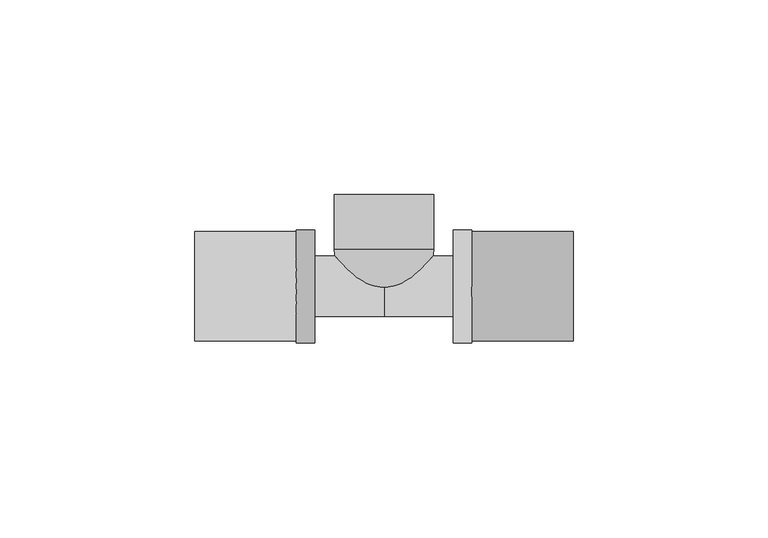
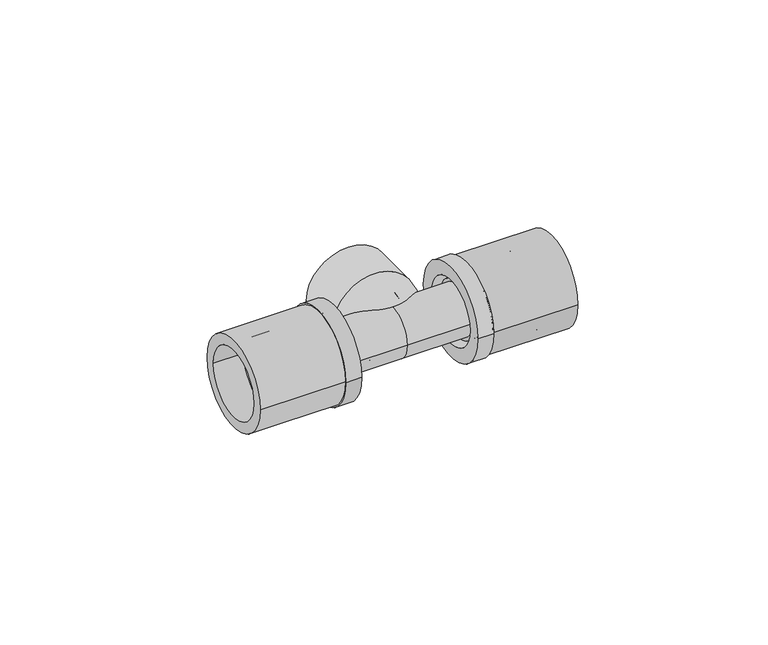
"""IFC4 building model written with IfcOpenShell, lengths in millimetres: pipe fitting geometry, FASTLOC_T-piece internal thread LX : FSL T thread LX CZ."""

from ifc_helpers import new_model, si_unit, point, frame, origin, origin_2d, place, context, project, spatial, polyline, circle_curve, ellipse_curve, trimmed, segment, composite_curve, outline, extrude, source, transform, mapped, element, save
from ifc_brep_helpers import plane_surface, cylinder_surface, revolved_surface, advanced_brep


def pipe_fitting_47d0521d(model_context):
    return source(origin(), model_context, "Body", "SolidModel", [
        extrude(outline(composite_curve([segment(trimmed(circle_curve(origin_2d(), 14.0), [point((-14.0, 0.0))], [point((14.0, 0.0))], False, "CARTESIAN"), True, "CONTINUOUS"), segment(trimmed(circle_curve(origin_2d(), 14.0), [point((14.0, 0.0))], [point((-14.0, 0.0))], False, "CARTESIAN"), True, "CONTINUOUS")], self_intersect=False), holes=[composite_curve([segment(trimmed(circle_curve(origin_2d(), 10.7), [point((-10.7, 0.0))], [point((10.7, 0.0))], True, "CARTESIAN"), True, "CONTINUOUS"), segment(trimmed(circle_curve(origin_2d(), 10.7), [point((10.7, 0.0))], [point((-10.7, 0.0))], True, "CARTESIAN"), True, "CONTINUOUS")], self_intersect=False)]), frame((22.5, 0.0, 0.0), z_axis=(1.0, 0.0, 0.0), x_axis=(0.0, 1.0, 0.0)), (0.0, 0.0, 1.0), 26.0),
        advanced_brep(
        [(22.5, 14.5, 0.0), (22.5, -14.5, 0.0), (17.8, -14.5, 0.0), (17.8, 14.5, 0.0), (39.5, 11.85, 0.0), (39.5, -11.85, 0.0), (22.5, -11.85, 0.0), (22.5, 11.85, 0.0), (17.8, 10.15, 0.0), (17.8, -10.15, 0.0), (39.5, -10.15, 0.0), (39.5, 10.15, 0.0)],
        [
            (0, 1, circle_curve(frame((22.5, 0.0, 0.0), z_axis=(-1.0, 0.0, 0.0), x_axis=(0.0, -1.0, 0.0)), 14.5)),
            (1, 2),
            (2, 3, circle_curve(frame((17.8, 0.0, 0.0), z_axis=(1.0, 0.0, 0.0), x_axis=(0.0, -1.0, 0.0)), 14.5)),
            (3, 0),
            (4, 5, circle_curve(frame((39.5, 0.0, 0.0), z_axis=(-1.0, 0.0, 0.0), x_axis=(0.0, -1.0, 0.0)), 11.85)),
            (5, 6),
            (6, 7, circle_curve(frame((22.5, 0.0, 0.0), z_axis=(1.0, 0.0, 0.0), x_axis=(0.0, -1.0, 0.0)), 11.85)),
            (7, 4),
            (8, 9, circle_curve(frame((17.8, 0.0, 0.0), z_axis=(-1.0, 0.0, 0.0), x_axis=(0.0, -1.0, 0.0)), 10.15)),
            (9, 10),
            (10, 11, circle_curve(frame((39.5, 0.0, 0.0), z_axis=(1.0, 0.0, 0.0), x_axis=(0.0, -1.0, 0.0)), 10.15)),
            (11, 8),
            (1, 0, circle_curve(frame((22.5, 0.0, 0.0), z_axis=(-1.0, 0.0, 0.0), x_axis=(0.0, 1.0, 0.0)), 14.5)),
            (3, 2, circle_curve(frame((17.8, 0.0, 0.0), z_axis=(1.0, 0.0, 0.0), x_axis=(0.0, 1.0, 0.0)), 14.5)),
            (6, 7, circle_curve(frame((22.5, 0.0, 0.0), z_axis=(-1.0, 0.0, 0.0), x_axis=(0.0, 1.0, 0.0)), 11.85)),
            (5, 4, circle_curve(frame((39.5, 0.0, 0.0), z_axis=(-1.0, 0.0, 0.0), x_axis=(0.0, 1.0, 0.0)), 11.85)),
            (10, 11, circle_curve(frame((39.5, 0.0, 0.0), z_axis=(-1.0, 0.0, 0.0), x_axis=(0.0, 1.0, 0.0)), 10.15)),
            (9, 8, circle_curve(frame((17.8, 0.0, 0.0), z_axis=(-1.0, 0.0, 0.0), x_axis=(0.0, 1.0, 0.0)), 10.15)),
        ],
        [
            cylinder_surface(frame((17.8, 0.0, 0.0), z_axis=(1.0, 0.0, 0.0), x_axis=(0.0, -1.0, 0.0)), 14.5),
            cylinder_surface(frame((17.8, 0.0, 0.0), z_axis=(1.0, 0.0, 0.0), x_axis=(0.0, -1.0, 0.0)), 11.85),
            revolved_surface(polyline([(39.5, -10.15, 0.0), (17.8, -10.15, 0.0)]), (17.8, 0.0, 0.0), (1.0, 0.0, 0.0)),
            cylinder_surface(frame((17.8, 0.0, 0.0), z_axis=(1.0, 0.0, 0.0), x_axis=(0.0, 1.0, 0.0)), 14.5),
            plane_surface(frame((22.5, 0.0, 0.0), z_axis=(1.0, 0.0, 0.0), x_axis=(0.0, 1.0, 0.0))),
            cylinder_surface(frame((17.8, 0.0, 0.0), z_axis=(1.0, 0.0, 0.0), x_axis=(0.0, 1.0, 0.0)), 11.85),
            plane_surface(frame((39.5, 0.0, 0.0), z_axis=(1.0, 0.0, 0.0), x_axis=(0.0, 1.0, 0.0))),
            revolved_surface(polyline([(39.5, 10.15, 0.0), (17.8, 10.15, 0.0)]), (17.8, 0.0, 0.0), (1.0, 0.0, 0.0)),
            plane_surface(frame((17.8, 0.0, 0.0), z_axis=(-1.0, 0.0, 0.0), x_axis=(0.0, 1.0, 0.0))),
        ],
        [
            (0, [[1, 2, 3, 4]]),
            (1, [[5, 6, 7, 8]]),
            (2, [[9, 10, 11, 12]]),
            (3, [[13, -4, 14, -2]]),
            (4, [[-13, -1], [15, -7]]),
            (5, [[16, -8, -15, -6]]),
            (6, [[-16, -5], [17, -11]]),
            (7, [[18, -12, -17, -10]]),
            (8, [[-14, -3], [-18, -9]]),
        ],
    ),
        extrude(outline(composite_curve([segment(trimmed(circle_curve(origin_2d(), 14.0), [point((14.0, 0.0))], [point((-14.0, 0.0))], False, "CARTESIAN"), True, "CONTINUOUS"), segment(trimmed(circle_curve(origin_2d(), 14.0), [point((-14.0, 0.0))], [point((14.0, 0.0))], False, "CARTESIAN"), True, "CONTINUOUS")], self_intersect=False), holes=[composite_curve([segment(trimmed(circle_curve(origin_2d(), 10.7), [point((10.7, 0.0))], [point((-10.7, 0.0))], True, "CARTESIAN"), True, "CONTINUOUS"), segment(trimmed(circle_curve(origin_2d(), 10.7), [point((-10.7, 0.0))], [point((10.7, 0.0))], True, "CARTESIAN"), True, "CONTINUOUS")], self_intersect=False)]), frame((-48.5, 0.0, 0.0), z_axis=(1.0, 0.0, 0.0), x_axis=(0.0, 1.0, 0.0)), (0.0, 0.0, 1.0), 26.0),
        advanced_brep(
        [(-22.5, -14.5, 0.0), (-22.5, 14.5, 0.0), (-17.8, 14.5, 0.0), (-17.8, -14.5, 0.0), (-39.5, -11.85, 0.0), (-39.5, 11.85, 0.0), (-22.5, 11.85, 0.0), (-22.5, -11.85, 0.0), (-17.8, -10.15, 0.0), (-17.8, 10.15, 0.0), (-39.5, 10.15, 0.0), (-39.5, -10.15, 0.0)],
        [
            (0, 1, circle_curve(frame((-22.5, 0.0, 0.0), z_axis=(1.0, 0.0, 0.0), x_axis=(0.0, 1.0, 0.0)), 14.5)),
            (1, 2),
            (2, 3, circle_curve(frame((-17.8, 0.0, 0.0), z_axis=(-1.0, 0.0, 0.0), x_axis=(0.0, 1.0, 0.0)), 14.5)),
            (3, 0),
            (4, 5, circle_curve(frame((-39.5, 0.0, 0.0), z_axis=(1.0, 0.0, 0.0), x_axis=(0.0, 1.0, 0.0)), 11.85)),
            (5, 6),
            (6, 7, circle_curve(frame((-22.5, 0.0, 0.0), z_axis=(-1.0, 0.0, 0.0), x_axis=(0.0, 1.0, 0.0)), 11.85)),
            (7, 4),
            (8, 9, circle_curve(frame((-17.8, 0.0, 0.0), z_axis=(1.0, 0.0, 0.0), x_axis=(0.0, 1.0, 0.0)), 10.15)),
            (9, 10),
            (10, 11, circle_curve(frame((-39.5, 0.0, 0.0), z_axis=(-1.0, 0.0, 0.0), x_axis=(0.0, 1.0, 0.0)), 10.15)),
            (11, 8),
            (1, 0, circle_curve(frame((-22.5, 0.0, 0.0), z_axis=(1.0, 0.0, 0.0), x_axis=(0.0, -1.0, 0.0)), 14.5)),
            (3, 2, circle_curve(frame((-17.8, 0.0, 0.0), z_axis=(-1.0, 0.0, 0.0), x_axis=(0.0, -1.0, 0.0)), 14.5)),
            (6, 7, circle_curve(frame((-22.5, 0.0, 0.0), z_axis=(1.0, 0.0, 0.0), x_axis=(0.0, -1.0, 0.0)), 11.85)),
            (5, 4, circle_curve(frame((-39.5, 0.0, 0.0), z_axis=(1.0, 0.0, 0.0), x_axis=(0.0, -1.0, 0.0)), 11.85)),
            (10, 11, circle_curve(frame((-39.5, 0.0, 0.0), z_axis=(1.0, 0.0, 0.0), x_axis=(0.0, -1.0, 0.0)), 10.15)),
            (9, 8, circle_curve(frame((-17.8, 0.0, 0.0), z_axis=(1.0, 0.0, 0.0), x_axis=(0.0, -1.0, 0.0)), 10.15)),
        ],
        [
            cylinder_surface(frame((-17.8, 0.0, 0.0), z_axis=(-1.0, 0.0, 0.0), x_axis=(0.0, 1.0, 0.0)), 14.5),
            cylinder_surface(frame((-17.8, 0.0, 0.0), z_axis=(-1.0, 0.0, 0.0), x_axis=(0.0, 1.0, 0.0)), 11.85),
            revolved_surface(polyline([(-39.5, 10.15, 0.0), (-17.8, 10.15, 0.0)]), (-17.8, 0.0, 0.0), (-1.0, 0.0, 0.0)),
            cylinder_surface(frame((-17.8, 0.0, 0.0), z_axis=(-1.0, 0.0, 0.0), x_axis=(0.0, -1.0, 0.0)), 14.5),
            plane_surface(frame((-22.5, 0.0, 0.0), z_axis=(-1.0, 0.0, 0.0), x_axis=(0.0, -1.0, 0.0))),
            cylinder_surface(frame((-17.8, 0.0, 0.0), z_axis=(-1.0, 0.0, 0.0), x_axis=(0.0, -1.0, 0.0)), 11.85),
            plane_surface(frame((-39.5, 0.0, 0.0), z_axis=(-1.0, 0.0, 0.0), x_axis=(0.0, -1.0, 0.0))),
            revolved_surface(polyline([(-39.5, -10.15, 0.0), (-17.8, -10.15, 0.0)]), (-17.8, 0.0, 0.0), (-1.0, 0.0, 0.0)),
            plane_surface(frame((-17.8, 0.0, 0.0), z_axis=(1.0, 0.0, 0.0), x_axis=(0.0, -1.0, 0.0))),
        ],
        [
            (0, [[1, 2, 3, 4]]),
            (1, [[5, 6, 7, 8]]),
            (2, [[9, 10, 11, 12]]),
            (3, [[13, -4, 14, -2]]),
            (4, [[-13, -1], [15, -7]]),
            (5, [[16, -8, -15, -6]]),
            (6, [[-16, -5], [17, -11]]),
            (7, [[18, -12, -17, -10]]),
            (8, [[-14, -3], [-18, -9]]),
        ],
    ),
        advanced_brep(
        [(22.5, 8.8, 0.0), (22.5, -8.8, 0.0), (19.8, -8.8, 0.0), (19.8, 8.8, 0.0), (39.9, 7.75, 0.0), (39.9, -7.75, 0.0), (22.5, -7.75, 0.0), (22.5, 7.75, 0.0), (-39.9, 5.75, 0.0), (-39.9, -5.75, 0.0), (39.9, -5.75, 0.0), (39.9, 5.75, 0.0), (-22.5, 7.75, 0.0), (-22.5, -7.75, 0.0), (-39.9, -7.75, 0.0), (-39.9, 7.75, 0.0), (-19.8, 8.8, 0.0), (-19.8, -8.8, 0.0), (-22.5, -8.8, 0.0), (-22.5, 8.8, 0.0), (0.0, 7.75, 0.0), (0.0, -7.75, 0.0), (-19.8, -7.75, 0.0), (-19.8, 7.75, 0.0), (19.8, 7.75, 0.0), (19.8, -7.75, 0.0)],
        [
            (0, 1, circle_curve(frame((22.5, 0.0, 0.0), z_axis=(-1.0, 0.0, 0.0), x_axis=(0.0, -1.0, 0.0)), 8.8)),
            (1, 2),
            (2, 3, circle_curve(frame((19.8, 0.0, 0.0), z_axis=(1.0, 0.0, 0.0), x_axis=(0.0, -1.0, 0.0)), 8.8)),
            (3, 0),
            (4, 5, circle_curve(frame((39.9, 0.0, 0.0), z_axis=(-1.0, 0.0, 0.0), x_axis=(0.0, -1.0, 0.0)), 7.75)),
            (5, 6),
            (6, 7, circle_curve(frame((22.5, 0.0, 0.0), z_axis=(1.0, 0.0, 0.0), x_axis=(0.0, -1.0, 0.0)), 7.75)),
            (7, 4),
            (8, 9, circle_curve(frame((-39.9, 0.0, 0.0), z_axis=(-1.0, 0.0, 0.0), x_axis=(0.0, -1.0, 0.0)), 5.75)),
            (9, 10),
            (10, 11, circle_curve(frame((39.9, 0.0, 0.0), z_axis=(1.0, 0.0, 0.0), x_axis=(0.0, -1.0, 0.0)), 5.75)),
            (11, 8),
            (12, 13, circle_curve(frame((-22.5, 0.0, 0.0), z_axis=(-1.0, 0.0, 0.0), x_axis=(0.0, -1.0, 0.0)), 7.75)),
            (13, 14),
            (14, 15, circle_curve(frame((-39.9, 0.0, 0.0), z_axis=(1.0, 0.0, 0.0), x_axis=(0.0, -1.0, 0.0)), 7.75)),
            (15, 12),
            (16, 17, circle_curve(frame((-19.8, 0.0, 0.0), z_axis=(-1.0, 0.0, 0.0), x_axis=(0.0, -1.0, 0.0)), 8.8)),
            (17, 18),
            (18, 19, circle_curve(frame((-22.5, 0.0, 0.0), z_axis=(1.0, 0.0, 0.0), x_axis=(0.0, -1.0, 0.0)), 8.8)),
            (19, 16),
            (20, 21, circle_curve(frame((0.0, 0.0, 0.0), z_axis=(-1.0, 0.0, 0.0), x_axis=(0.0, -1.0, 0.0)), 7.75)),
            (21, 22),
            (22, 23, circle_curve(frame((-19.8, 0.0, 0.0), z_axis=(1.0, 0.0, 0.0), x_axis=(0.0, -1.0, 0.0)), 7.75)),
            (23, 20),
            (24, 25, circle_curve(frame((19.8, 0.0, 0.0), z_axis=(-1.0, 0.0, 0.0), x_axis=(0.0, -1.0, 0.0)), 7.75)),
            (25, 21),
            (20, 24),
            (1, 0, circle_curve(frame((22.5, 0.0, 0.0), z_axis=(-1.0, 0.0, 0.0), x_axis=(0.0, 1.0, 0.0)), 8.8)),
            (3, 2, circle_curve(frame((19.8, 0.0, 0.0), z_axis=(1.0, 0.0, 0.0), x_axis=(0.0, 1.0, 0.0)), 8.8)),
            (6, 7, circle_curve(frame((22.5, 0.0, 0.0), z_axis=(-1.0, 0.0, 0.0), x_axis=(0.0, 1.0, 0.0)), 7.75)),
            (5, 4, circle_curve(frame((39.9, 0.0, 0.0), z_axis=(-1.0, 0.0, 0.0), x_axis=(0.0, 1.0, 0.0)), 7.75)),
            (10, 11, circle_curve(frame((39.9, 0.0, 0.0), z_axis=(-1.0, 0.0, 0.0), x_axis=(0.0, 1.0, 0.0)), 5.75)),
            (9, 8, circle_curve(frame((-39.9, 0.0, 0.0), z_axis=(-1.0, 0.0, 0.0), x_axis=(0.0, 1.0, 0.0)), 5.75)),
            (14, 15, circle_curve(frame((-39.9, 0.0, 0.0), z_axis=(-1.0, 0.0, 0.0), x_axis=(0.0, 1.0, 0.0)), 7.75)),
            (13, 12, circle_curve(frame((-22.5, 0.0, 0.0), z_axis=(-1.0, 0.0, 0.0), x_axis=(0.0, 1.0, 0.0)), 7.75)),
            (18, 19, circle_curve(frame((-22.5, 0.0, 0.0), z_axis=(-1.0, 0.0, 0.0), x_axis=(0.0, 1.0, 0.0)), 8.8)),
            (17, 16, circle_curve(frame((-19.8, 0.0, 0.0), z_axis=(-1.0, 0.0, 0.0), x_axis=(0.0, 1.0, 0.0)), 8.8)),
            (22, 23, circle_curve(frame((-19.8, 0.0, 0.0), z_axis=(-1.0, 0.0, 0.0), x_axis=(0.0, 1.0, 0.0)), 7.75)),
            (21, 20, circle_curve(frame((0.0, 0.0, 0.0), z_axis=(-1.0, 0.0, 0.0), x_axis=(0.0, 1.0, 0.0)), 7.75)),
            (25, 24, circle_curve(frame((19.8, 0.0, 0.0), z_axis=(-1.0, 0.0, 0.0), x_axis=(0.0, 1.0, 0.0)), 7.75)),
        ],
        [
            cylinder_surface(frame((0.0, 0.0, 0.0), z_axis=(1.0, 0.0, 0.0), x_axis=(0.0, -1.0, 0.0)), 8.8),
            cylinder_surface(frame((0.0, 0.0, 0.0), z_axis=(1.0, 0.0, 0.0), x_axis=(0.0, -1.0, 0.0)), 7.75),
            revolved_surface(polyline([(39.9, -5.75, 0.0), (-39.9, -5.75, 0.0)]), (0.0, 0.0, 0.0), (1.0, 0.0, 0.0)),
            cylinder_surface(frame((0.0, 0.0, 0.0), z_axis=(1.0, 0.0, 0.0), x_axis=(0.0, 1.0, 0.0)), 8.8),
            plane_surface(frame((22.5, 0.0, 0.0), z_axis=(1.0, 0.0, 0.0), x_axis=(0.0, 1.0, 0.0))),
            cylinder_surface(frame((0.0, 0.0, 0.0), z_axis=(1.0, 0.0, 0.0), x_axis=(0.0, 1.0, 0.0)), 7.75),
            plane_surface(frame((39.9, 0.0, 0.0), z_axis=(1.0, 0.0, 0.0), x_axis=(0.0, 1.0, 0.0))),
            revolved_surface(polyline([(39.9, 5.75, 0.0), (-39.9, 5.75, 0.0)]), (0.0, 0.0, 0.0), (1.0, 0.0, 0.0)),
            plane_surface(frame((-39.9, 0.0, 0.0), z_axis=(-1.0, 0.0, 0.0), x_axis=(0.0, 1.0, 0.0))),
            plane_surface(frame((-22.5, 0.0, 0.0), z_axis=(-1.0, 0.0, 0.0), x_axis=(0.0, 1.0, 0.0))),
            plane_surface(frame((-19.8, 0.0, 0.0), z_axis=(1.0, 0.0, 0.0), x_axis=(0.0, 1.0, 0.0))),
            plane_surface(frame((19.8, 0.0, 0.0), z_axis=(-1.0, 0.0, 0.0), x_axis=(0.0, 1.0, 0.0))),
        ],
        [
            (0, [[1, 2, 3, 4]]),
            (1, [[5, 6, 7, 8]]),
            (2, [[9, 10, 11, 12]]),
            (1, [[13, 14, 15, 16]]),
            (0, [[17, 18, 19, 20]]),
            (1, [[21, 22, 23, 24]]),
            (1, [[25, 26, -21, 27]]),
            (3, [[28, -4, 29, -2]]),
            (4, [[-28, -1], [30, -7]]),
            (5, [[31, -8, -30, -6]]),
            (6, [[-31, -5], [32, -11]]),
            (7, [[33, -12, -32, -10]]),
            (8, [[34, -15], [-33, -9]]),
            (5, [[35, -16, -34, -14]]),
            (9, [[36, -19], [-35, -13]]),
            (3, [[37, -20, -36, -18]]),
            (10, [[-37, -17], [38, -23]]),
            (5, [[39, -24, -38, -22]]),
            (5, [[40, -27, -39, -26]]),
            (11, [[-29, -3], [-40, -25]]),
        ],
    ),
        advanced_brep(
        [(0.5, -3.3401923, 0.0), (-0.5, -3.3401923, 0.0), (-12.75, 9.4, 0.0), (12.75, 9.4, 0.0), (0.5, 1.9166852, 0.0), (-0.5, 1.9166852, 0.0), (7.5, 9.4, 0.0), (-7.5, 9.4, 0.0), (7.5, 23.5, 0.0), (-7.5, 23.5, 0.0), (-12.75, 23.5, 0.0), (12.75, 23.5, 0.0)],
        [
            (0, 1, circle_curve(frame((0.0, -3.3401923, 0.0), z_axis=(0.0, 1.0, 0.0), x_axis=(-1.0, 0.0, 0.0)), 0.5)),
            (1, 2, circle_curve(frame((0.0, 9.4, 0.0), z_axis=(0.0, 0.0, -1.0), x_axis=(0.0, 1.0, 0.0)), 12.75)),
            (2, 3, circle_curve(frame((0.0, 9.4, 0.0), z_axis=(0.0, -1.0, 0.0), x_axis=(-1.0, 0.0, 0.0)), 12.75)),
            (3, 0, circle_curve(frame((0.0, 9.4, 0.0), z_axis=(0.0, 0.0, -1.0), x_axis=(0.0, 1.0, 0.0)), 12.75)),
            (4, 5, circle_curve(frame((0.0, 1.9166852, 0.0), z_axis=(0.0, 1.0, 0.0), x_axis=(-1.0, 0.0, 0.0)), 0.5)),
            (5, 1),
            (0, 4),
            (6, 7, circle_curve(frame((0.0, 9.4, 0.0), z_axis=(0.0, 1.0, 0.0), x_axis=(-1.0, 0.0, 0.0)), 7.5)),
            (7, 5, circle_curve(frame((0.0, 9.4, 0.0), z_axis=(0.0, 0.0, 1.0), x_axis=(0.0, 1.0, 0.0)), 7.5)),
            (4, 6, circle_curve(frame((0.0, 9.4, 0.0), z_axis=(0.0, 0.0, 1.0), x_axis=(0.0, 1.0, 0.0)), 7.5)),
            (8, 9, circle_curve(frame((0.0, 23.5, 0.0), z_axis=(0.0, 1.0, 0.0), x_axis=(-1.0, 0.0, 0.0)), 7.5)),
            (9, 7),
            (6, 8),
            (2, 10),
            (10, 11, circle_curve(frame((0.0, 23.5, 0.0), z_axis=(0.0, -1.0, 0.0), x_axis=(-1.0, 0.0, 0.0)), 12.75)),
            (11, 3),
            (1, 0, circle_curve(frame((0.0, -3.3401923, 0.0), z_axis=(0.0, 1.0, 0.0), x_axis=(1.0, 0.0, 0.0)), 0.5)),
            (3, 2, circle_curve(frame((0.0, 9.4, 0.0), z_axis=(0.0, -1.0, 0.0), x_axis=(1.0, 0.0, 0.0)), 12.75)),
            (5, 4, circle_curve(frame((0.0, 1.9166852, 0.0), z_axis=(0.0, 1.0, 0.0), x_axis=(1.0, 0.0, 0.0)), 0.5)),
            (7, 6, circle_curve(frame((0.0, 9.4, 0.0), z_axis=(0.0, 1.0, 0.0), x_axis=(1.0, 0.0, 0.0)), 7.5)),
            (9, 8, circle_curve(frame((0.0, 23.5, 0.0), z_axis=(0.0, 1.0, 0.0), x_axis=(1.0, 0.0, 0.0)), 7.5)),
            (10, 11, circle_curve(frame((0.0, 23.5, 0.0), z_axis=(0.0, 1.0, 0.0), x_axis=(1.0, 0.0, 0.0)), 12.75)),
        ],
        [
            revolved_surface(trimmed(ellipse_curve(frame((0.0, 9.4, 0.0), z_axis=(0.0, 0.0, 1.0), x_axis=(0.0, 1.0, 0.0)), 12.75, 12.75), [point((-12.75, 9.4, 0.0))], [point((-0.5, -3.3401923, 0.0))], True, "CARTESIAN"), (0.0, 0.0, 0.0), (0.0, -1.0, 0.0)),
            revolved_surface(polyline([(-0.5, -3.3401923, 0.0), (-0.5, 1.9166852, 0.0)]), (0.0, 0.0, 0.0), (0.0, -1.0, 0.0)),
            revolved_surface(trimmed(ellipse_curve(frame((0.0, 9.4, 0.0), z_axis=(0.0, 0.0, -1.0), x_axis=(0.0, 1.0, 0.0)), 7.5, 7.5), [point((-0.5, 1.9166852, 0.0))], [point((-7.5, 9.4, 0.0))], True, "CARTESIAN"), (0.0, 0.0, 0.0), (0.0, -1.0, 0.0)),
            revolved_surface(polyline([(-7.5, 9.4, 0.0), (-7.5, 23.5, 0.0)]), (0.0, 0.0, 0.0), (0.0, -1.0, 0.0)),
            cylinder_surface(frame((0.0, 0.0, 0.0), z_axis=(0.0, -1.0, 0.0), x_axis=(-1.0, 0.0, 0.0)), 12.75),
            revolved_surface(trimmed(ellipse_curve(frame((0.0, 9.4, 0.0), z_axis=(0.0, 0.0, -1.0), x_axis=(0.0, 1.0, 0.0)), 12.75, 12.75), [point((12.75, 9.4, 0.0))], [point((0.5, -3.3401923, 0.0))], True, "CARTESIAN"), (0.0, 0.0, 0.0), (0.0, -1.0, 0.0)),
            revolved_surface(polyline([(0.5, -3.3401923, 0.0), (0.5, 1.9166852, 0.0)]), (0.0, 0.0, 0.0), (0.0, -1.0, 0.0)),
            revolved_surface(trimmed(ellipse_curve(frame((0.0, 9.4, 0.0), z_axis=(0.0, 0.0, 1.0), x_axis=(0.0, 1.0, 0.0)), 7.5, 7.5), [point((0.5, 1.9166852, 0.0))], [point((7.5, 9.4, 0.0))], True, "CARTESIAN"), (0.0, 0.0, 0.0), (0.0, -1.0, 0.0)),
            revolved_surface(polyline([(7.5, 9.4, 0.0), (7.5, 23.5, 0.0)]), (0.0, 0.0, 0.0), (0.0, -1.0, 0.0)),
            plane_surface(frame((0.0, 23.5, 0.0), z_axis=(0.0, 1.0, 0.0), x_axis=(1.0, 0.0, 0.0))),
            cylinder_surface(frame((0.0, 0.0, 0.0), z_axis=(0.0, -1.0, 0.0), x_axis=(1.0, 0.0, 0.0)), 12.75),
        ],
        [
            (0, [[1, 2, 3, 4]]),
            (1, [[5, 6, -1, 7]]),
            (2, [[8, 9, -5, 10]]),
            (3, [[11, 12, -8, 13]]),
            (4, [[-3, 14, 15, 16]]),
            (5, [[17, -4, 18, -2]]),
            (6, [[19, -7, -17, -6]]),
            (7, [[20, -10, -19, -9]]),
            (8, [[21, -13, -20, -12]]),
            (9, [[22, -15], [-21, -11]]),
            (10, [[-18, -16, -22, -14]]),
        ],
    ),
    ])


if __name__ == "__main__":
    model = new_model("IFC4")
    model_context = context("Model", 3, world=origin())
    ifc_project = project(units=[si_unit("LENGTHUNIT", "METRE", prefix="MILLI")], contexts=[model_context])
    site = spatial("IfcSite", under=ifc_project)
    building = spatial("IfcBuilding", under=site)
    placement = place(None, origin())
    pipe_fitting_shape = pipe_fitting_47d0521d(model_context)
    element("IfcPipeFitting", 1, ObjectType="FASTLOC_T-piece internal thread LX : FSL T thread LX CZ", at=placement, inside=building, context=model_context, shape_type="MappedRepresentation", body=[
        mapped(pipe_fitting_shape, transform((0.0, 0.0, 0.0), x_axis=(1.0, 0.0, 0.0), y_axis=(0.0, 1.0, 0.0), z_axis=(0.0, 0.0, 1.0))),
    ])
    save(model, "model.ifc")
